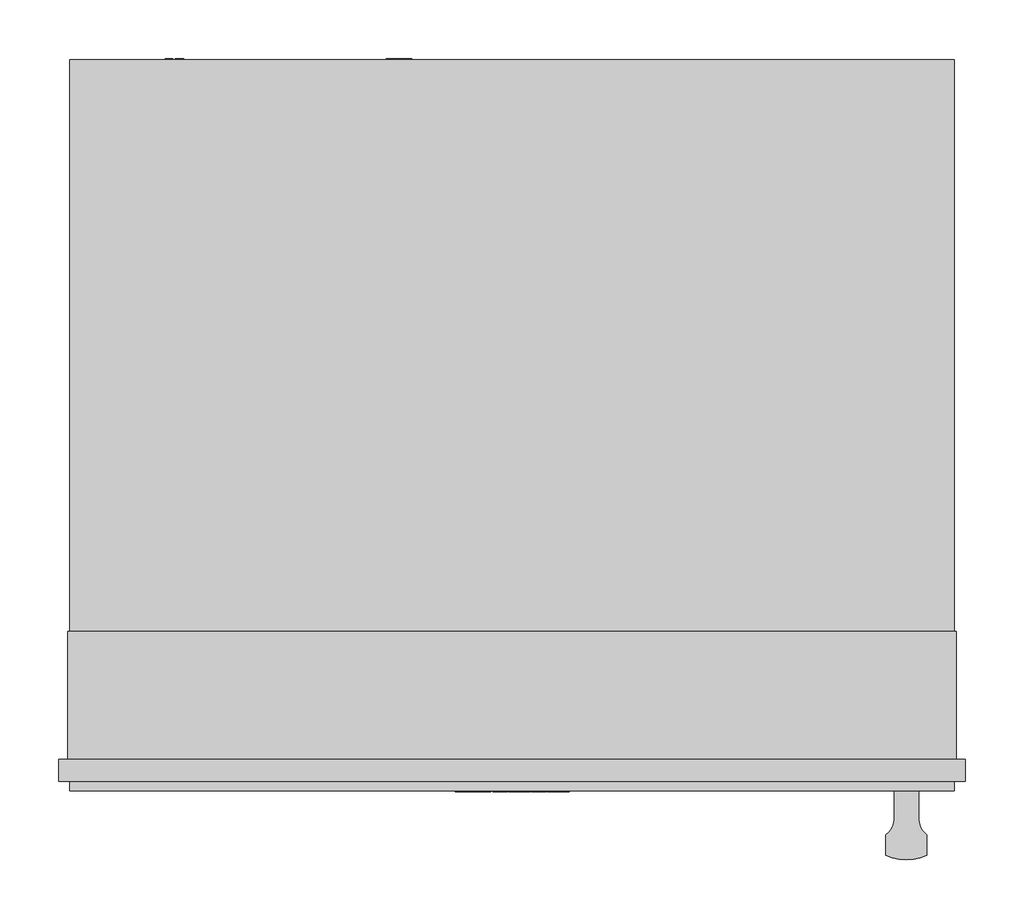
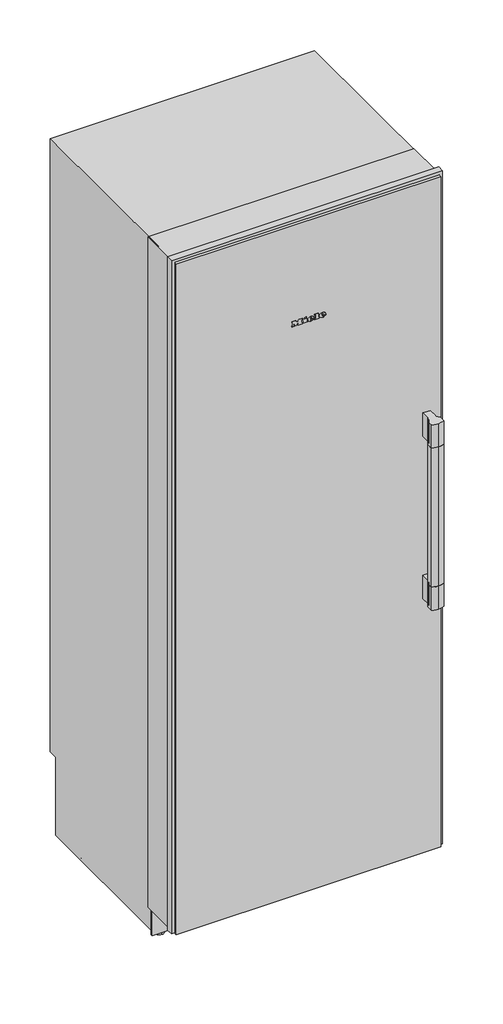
# Not in any storey: 1 proxy.
"""IFC4 building model written with IfcOpenShell, lengths in millimetres."""

from ifc_helpers import new_model, si_unit, origin, place, context, project, spatial, transform, mapped, element, save
from components import specialty_equipment_0586f4f4

model = new_model("IFC4")

# Units and contexts
model_context = context("Model", 3, world=origin())
ifc_project = project(units=[si_unit("LENGTHUNIT", "METRE", prefix="MILLI")], contexts=[model_context])

# Site, building
site = spatial("IfcSite", under=ifc_project)
building = spatial("IfcBuilding", under=site)

# Proxy
placement = place(None, origin())
specialty_equipment_shape = specialty_equipment_0586f4f4(model_context)
element("IfcBuildingElementProxy", 1, Name="11503350_USA_F2812SF : 37281211_USA_11503350_F2812SF", ObjectType="11503350_USA_F2812SF : 37281211_USA_11503350_F2812SF", at=placement, inside=building, context=model_context, shape_type="MappedRepresentation", body=[
    mapped(specialty_equipment_shape, transform((0.0, 0.0, 0.0), x_axis=(1.0, 0.0, 0.0), y_axis=(0.0, 1.0, 0.0), z_axis=(0.0, 0.0, 1.0))),
])

save(model, "model.ifc")
